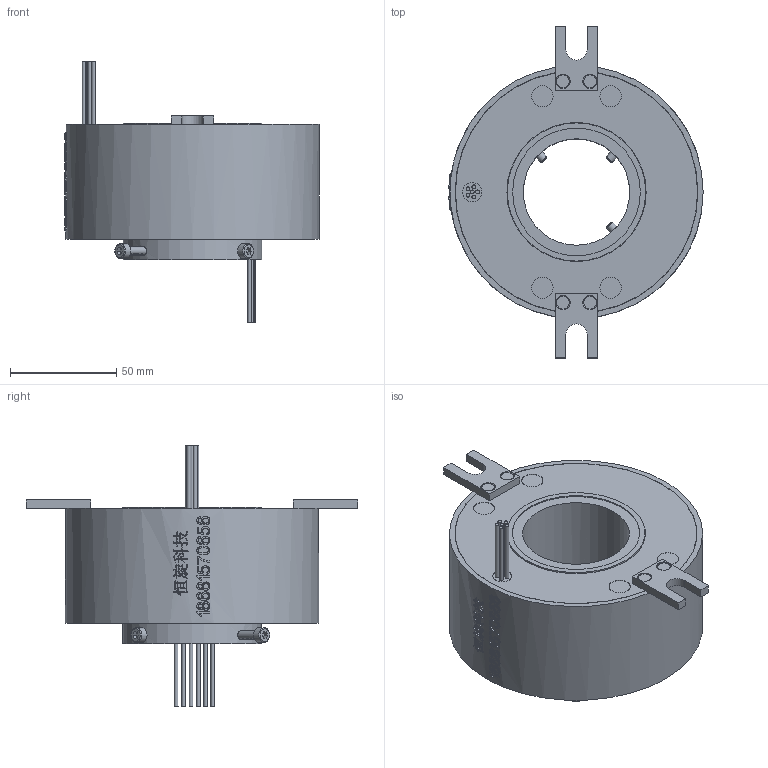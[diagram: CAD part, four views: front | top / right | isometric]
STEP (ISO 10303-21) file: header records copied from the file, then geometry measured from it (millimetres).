
FILE_DESCRIPTION(/* description */ (''),/* implementation_level */ '2;1');
FILE_NAME(/* name */ 'HD50119-0610-3D模型.stp',/* time_stamp */ '2025-09-04T09:00:30+08:00',/* author */ (''),/* organization */ (''),/* preprocessor_version */ 'ST-DEVELOPER v16.7',/* originating_system */ 'SIEMENS PLM Software NX 12.0',/* authorisation */ '');
FILE_SCHEMA (('AUTOMOTIVE_DESIGN { 1 0 10303 214 3 1 1 1 }'));
Length unit declared in the file: millimetre
Products named in the file (1): Admi3138F06C1fnp
Bounding box: 119.47 x 156 x 123.1 mm (x, y, z)
Volume: 512895.4 mm3; surface area: 58067.7 mm2
Topology: 1 solids, 5 shells, 752 faces, 1979 edges, 1317 vertices
Faces by surface type: plane 323, extrusion 313, cylinder 70, bspline 30, cone 12, torus 4
Full cylindrical faces by diameter (mm): 1.8 x12, 3 x4, 3.4 x1, 3.5 x4, 4 x7, 6 x4, 7 x4, 9 x1, 10 x4, 50 x1, 60 x1, 65 x2, 65.4 x1, 113.8 x2, 114 x2, 119 x1
Entity records: 28796 total; most frequent: CARTESIAN_POINT 13037, ORIENTED_EDGE 3768, DIRECTION 1971, EDGE_CURVE 1884, B_SPLINE_CURVE_WITH_KNOTS 1644, VERTEX_POINT 1289, EDGE_LOOP 913, ADVANCED_FACE 752
